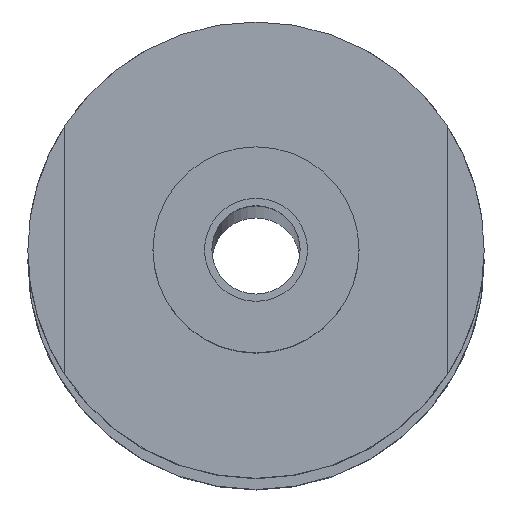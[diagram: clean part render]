
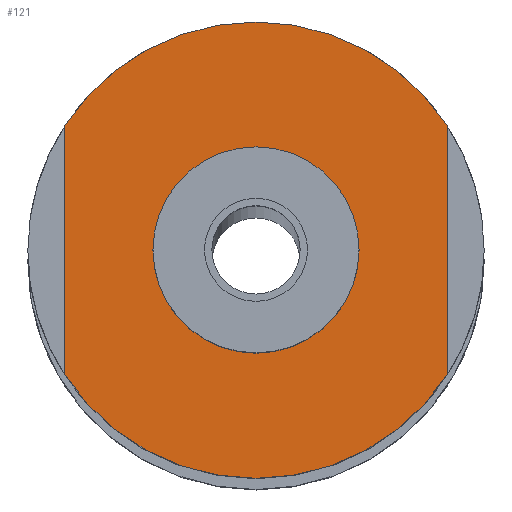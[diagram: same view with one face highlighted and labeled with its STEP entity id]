
A CAD part, top view. The second image highlights one B-rep face of the part: STEP entity #121.
In plain terms, the highlighted planar face has unit normal (0, 0, 1).
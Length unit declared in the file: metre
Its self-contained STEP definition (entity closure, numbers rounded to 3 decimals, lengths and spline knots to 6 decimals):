
#121=ADVANCED_FACE('37:1511',(#238,#239),#240,.T.);
#238=FACE_OUTER_BOUND('',#364,.T.);
#239=FACE_BOUND('',#365,.T.);
#240=PLANE('',#366);
#364=EDGE_LOOP('',(#596,#597,#598,#599,#600,#601));
#365=EDGE_LOOP('',(#602,#603));
#366=AXIS2_PLACEMENT_3D('',#604,#605,#606);
#596=ORIENTED_EDGE('',*,*,#761,.F.);
#597=ORIENTED_EDGE('',*,*,#760,.F.);
#598=ORIENTED_EDGE('',*,*,#756,.F.);
#599=ORIENTED_EDGE('',*,*,#688,.F.);
#600=ORIENTED_EDGE('',*,*,#687,.F.);
#601=ORIENTED_EDGE('',*,*,#751,.T.);
#602=ORIENTED_EDGE('',*,*,#749,.F.);
#603=ORIENTED_EDGE('',*,*,#693,.F.);
#604=CARTESIAN_POINT('',(0.0,0.0,2.815));
#605=DIRECTION('',(0.0,0.0,1.0));
#606=DIRECTION('',(1.0,0.0,0.0));
#687=EDGE_CURVE('37:1561',#812,#814,#815,.F.);
#688=EDGE_CURVE('37:1552',#814,#816,#817,.F.);
#693=EDGE_CURVE('',#822,#825,#826,.T.);
#749=EDGE_CURVE('37:1539',#825,#822,#907,.T.);
#751=EDGE_CURVE('37:3142',#812,#909,#910,.T.);
#756=EDGE_CURVE('37:2641',#816,#917,#918,.F.);
#760=EDGE_CURVE('37:1558',#917,#922,#923,.F.);
#761=EDGE_CURVE('37:1549',#922,#909,#924,.F.);
#812=VERTEX_POINT('',#1001);
#814=VERTEX_POINT('',#1004);
#815=CIRCLE('',#1005,0.0155);
#816=VERTEX_POINT('',#1006);
#817=CIRCLE('',#1007,0.0155);
#822=VERTEX_POINT('',#1013);
#825=VERTEX_POINT('',#1017);
#826=CIRCLE('',#1018,0.007);
#907=CIRCLE('',#1116,0.007);
#909=VERTEX_POINT('',#1118);
#910=LINE('',#1119,#1120);
#917=VERTEX_POINT('',#1130);
#918=LINE('',#1131,#1132);
#922=VERTEX_POINT('',#1137);
#923=CIRCLE('',#1138,0.0155);
#924=CIRCLE('',#1139,0.0155);
#1001=CARTESIAN_POINT('',(-0.013092,0.008536,2.815));
#1004=CARTESIAN_POINT('',(-0.000092,0.015595,2.815));
#1005=AXIS2_PLACEMENT_3D('',#1221,#1222,#1223);
#1006=CARTESIAN_POINT('',(0.012908,0.008536,2.815));
#1007=AXIS2_PLACEMENT_3D('',#1224,#1225,#1226);
#1013=CARTESIAN_POINT('',(0.006908,0.000095,2.815));
#1017=CARTESIAN_POINT('',(-0.007092,0.000095,2.815));
#1018=AXIS2_PLACEMENT_3D('',#1232,#1233,#1234);
#1116=AXIS2_PLACEMENT_3D('',#1318,#1319,#1320);
#1118=CARTESIAN_POINT('',(-0.013092,-0.008346,2.815));
#1119=CARTESIAN_POINT('',(-0.013092,0.000048,2.815));
#1120=VECTOR('',#1321,1.0);
#1130=CARTESIAN_POINT('',(0.012908,-0.008346,2.815));
#1131=CARTESIAN_POINT('',(0.012908,0.000048,2.815));
#1132=VECTOR('',#1325,1.0);
#1137=CARTESIAN_POINT('',(-0.000092,-0.015405,2.815));
#1138=AXIS2_PLACEMENT_3D('',#1330,#1331,#1332);
#1139=AXIS2_PLACEMENT_3D('',#1333,#1334,#1335);
#1221=CARTESIAN_POINT('',(-0.000092,0.000095,2.815));
#1222=DIRECTION('',(0.0,0.0,1.0));
#1223=DIRECTION('',(1.0,0.0,0.0));
#1224=CARTESIAN_POINT('',(-0.000092,0.000095,2.815));
#1225=DIRECTION('',(0.0,0.0,1.0));
#1226=DIRECTION('',(1.0,0.0,0.0));
#1232=CARTESIAN_POINT('',(-0.000092,0.000095,2.815));
#1233=DIRECTION('',(0.0,0.0,1.0));
#1234=DIRECTION('',(1.0,0.0,-0.0));
#1318=CARTESIAN_POINT('',(-0.000092,0.000095,2.815));
#1319=DIRECTION('',(0.0,0.0,1.0));
#1320=DIRECTION('',(1.0,0.0,-0.0));
#1321=DIRECTION('',(0.,-1.0,0.0));
#1325=DIRECTION('',(0.,1.0,0.0));
#1330=CARTESIAN_POINT('',(-0.000092,0.000095,2.815));
#1331=DIRECTION('',(0.0,0.0,1.0));
#1332=DIRECTION('',(1.0,0.0,0.0));
#1333=CARTESIAN_POINT('',(-0.000092,0.000095,2.815));
#1334=DIRECTION('',(0.0,0.0,1.0));
#1335=DIRECTION('',(1.0,0.0,0.0));
